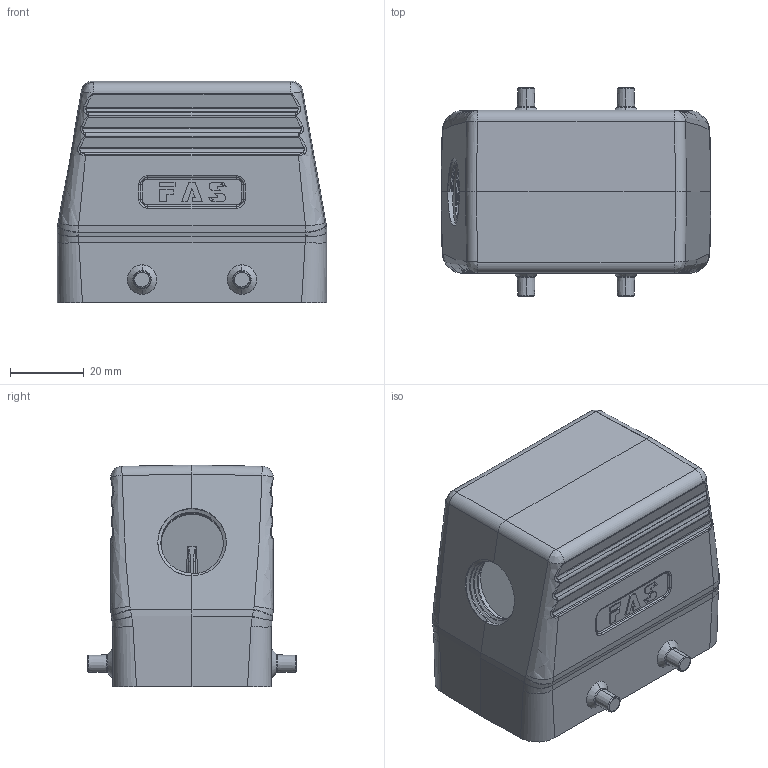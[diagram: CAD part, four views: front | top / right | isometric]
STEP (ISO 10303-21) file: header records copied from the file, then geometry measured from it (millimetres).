
FILE_DESCRIPTION (( 'STEP AP203' ), '1' );
FILE_NAME ('H10B-TS-M20.STEP', '2020-11-21T02:45:05', ( '' ), ( '' ), 'SwSTEP 2.0', 'SolidWorks 2016', '' );
FILE_SCHEMA (( 'CONFIG_CONTROL_DESIGN' ));
Length unit declared in the file: millimetre
Products named in the file (1): H10B-TS-M20
Bounding box: 73 x 56.4 x 60 mm (x, y, z)
Volume: 61167 mm3; surface area: 28809.3 mm2
Topology: 1 solids, 1 shells, 558 faces, 1378 edges, 853 vertices
Faces by surface type: bspline 186, plane 179, cylinder 148, cone 45
Entity records: 26043 total; most frequent: CARTESIAN_POINT 14438, ORIENTED_EDGE 2756, DIRECTION 1883, EDGE_CURVE 1378, VERTEX_POINT 853, AXIS2_PLACEMENT_3D 660, EDGE_LOOP 591, VECTOR 563
